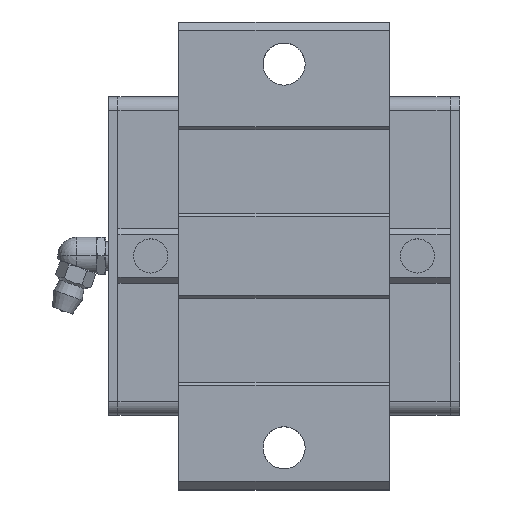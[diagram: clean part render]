
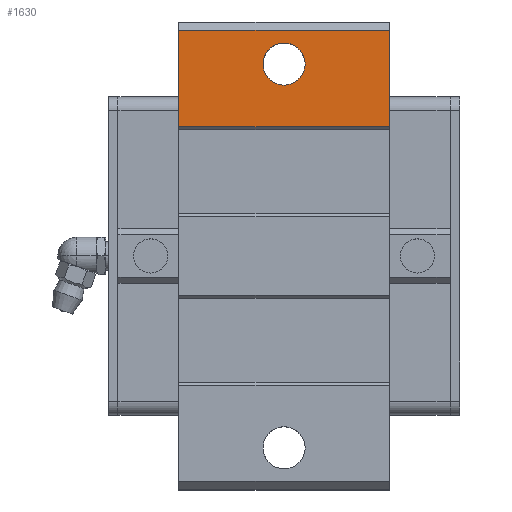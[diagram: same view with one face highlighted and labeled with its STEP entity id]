
A CAD part, top view. The second image highlights one B-rep face of the part: STEP entity #1630.
In plain terms, the highlighted planar face has unit normal (0, 0, 1).
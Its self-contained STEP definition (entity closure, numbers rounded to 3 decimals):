
#135=CARTESIAN_POINT('POINT14',(42.,41.,37.));
#136=VERTEX_POINT('VERTEX14',#135);
#143=CARTESIAN_POINT('POINT15',(33.,41.,37.));
#144=VERTEX_POINT('VERTEX15',#143);
#145=CARTESIAN_POINT('POS17',(37.5,41.,37.));
#146=DIRECTION('DIR26',(0.,0.,-1.));
#147=DIRECTION('DIR27',(1.,0.,0.));
#148=AXIS2_PLACEMENT_3D('AXIS10',#145,#146,#147);
#149=CIRCLE('ELLIPSE7',#148,4.5);
#150=EDGE_CURVE('EDGE16',#144,#136,#149,.T.);
#183=EDGE_CURVE('EDGE21',#136,#144,#149,.T.);
#1565=CARTESIAN_POINT('POINT105',(60.,48.2,37.));
#1566=VERTEX_POINT('VERTEX105',#1565);
#1574=CARTESIAN_POINT('POINT106',(15.,48.2,37.));
#1575=VERTEX_POINT('VERTEX106',#1574);
#1582=CARTESIAN_POINT('POS191',(15.,48.2,37.));
#1583=DIRECTION('DIR282',(1.,0.,0.));
#1584=VECTOR('VEC100',#1583,1.);
#1585=LINE('STRAIGHT100',#1582,#1584);
#1586=EDGE_CURVE('EDGE154',#1575,#1566,#1585,.T.);
#1596=ORIENTED_EDGE('COEDGE218',*,*,#183,.T.);
#1597=ORIENTED_EDGE('COEDGE219',*,*,#150,.T.);
#1598=EDGE_LOOP('NONE',(#1596,#1597));
#1599=FACE_BOUND('LOOP1',#1598,.T.);
#1600=CARTESIAN_POINT('POINT107',(60.,27.65,37.));
#1601=VERTEX_POINT('VERTEX107',#1600);
#1602=CARTESIAN_POINT('POS193',(60.,27.65,37.));
#1603=DIRECTION('DIR285',(0.,1.,0.));
#1604=VECTOR('VEC101',#1603,1.);
#1605=LINE('STRAIGHT101',#1602,#1604);
#1606=EDGE_CURVE('EDGE155',#1601,#1566,#1605,.T.);
#1607=ORIENTED_EDGE('COEDGE220',*,*,#1606,.T.);
#1608=ORIENTED_EDGE('COEDGE221',*,*,#1586,.F.);
#1609=CARTESIAN_POINT('POINT108',(15.,27.65,37.));
#1610=VERTEX_POINT('VERTEX108',#1609);
#1611=CARTESIAN_POINT('POS194',(15.,27.65,37.));
#1612=DIRECTION('DIR286',(0.,1.,0.));
#1613=VECTOR('VEC102',#1612,1.);
#1614=LINE('STRAIGHT102',#1611,#1613);
#1615=EDGE_CURVE('EDGE156',#1610,#1575,#1614,.T.);
#1616=ORIENTED_EDGE('COEDGE222',*,*,#1615,.F.);
#1617=CARTESIAN_POINT('POS195',(15.,27.65,37.));
#1618=DIRECTION('DIR287',(1.,0.,0.));
#1619=VECTOR('VEC103',#1618,1.);
#1620=LINE('STRAIGHT103',#1617,#1619);
#1621=EDGE_CURVE('EDGE157',#1610,#1601,#1620,.T.);
#1622=ORIENTED_EDGE('COEDGE223',*,*,#1621,.T.);
#1623=EDGE_LOOP('NONE',(#1607,#1608,#1616,#1622));
#1624=FACE_BOUND('LOOP1',#1623,.T.);
#1625=CARTESIAN_POINT('POS196',(15.,27.65,37.));
#1626=DIRECTION('DIR288',(0.,0.,1.));
#1627=DIRECTION('DIR289',(1.,0.,0.));
#1628=AXIS2_PLACEMENT_3D('AXIS93',#1625,#1626,#1627);
#1629=PLANE('PLANE27',#1628);
#1630=ADVANCED_FACE('FACE51',(#1599,#1624),#1629,.T.);
